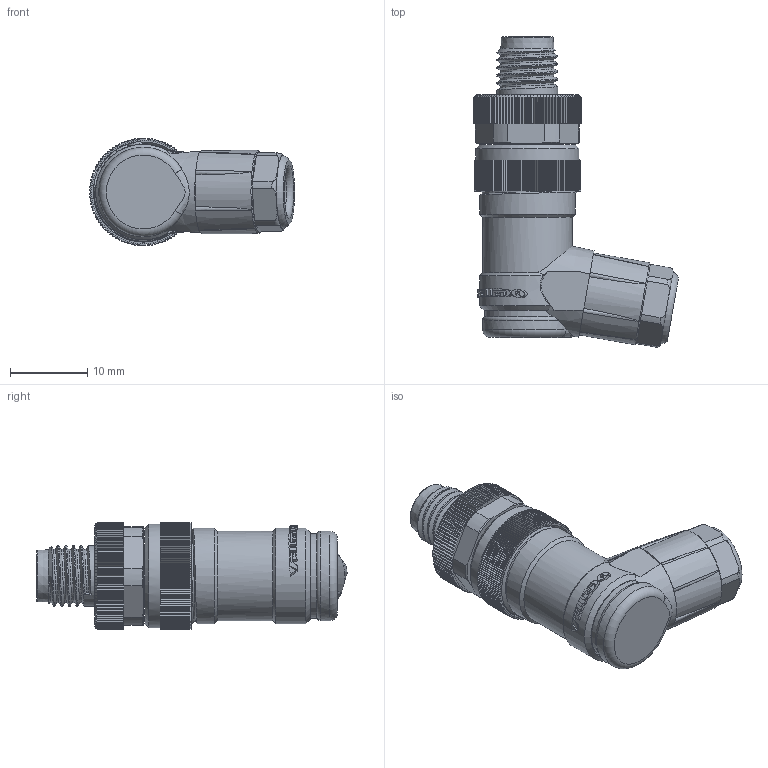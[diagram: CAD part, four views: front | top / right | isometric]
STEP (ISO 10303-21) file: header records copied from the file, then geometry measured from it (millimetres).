
FILE_DESCRIPTION(/* description */ (''),/* implementation_level */ '2;1');
FILE_NAME(/* name */ 'M8-M03S_stp.stp',/* time_stamp */ '2018-03-30T14:25:37+08:00',/* author */ (''),/* organization */ (''),/* preprocessor_version */ 'ST-DEVELOPER v16',/* originating_system */ 'SIEMENS PLM Software NX 10.0',/* authorisation */ '');
FILE_SCHEMA (('AP203_CONFIGURATION_CONTROLLED_3D_DESIGN_OF_MECHANICAL_PARTS_AND_ASSEMBLIES_MIM_LF { 1 0 10303 403 2 1 2}'));
Products named in the file (1): Admi4C5C2D16dtvu
Bounding box: 26.61 x 40.26 x 14 mm (x, y, z)
Volume: 3825.8 mm3; surface area: 6441.1 mm2
Topology: 1 solids, 1 shells, 1431 faces, 3764 edges, 2366 vertices
Faces by surface type: plane 885, cylinder 418, bspline 50, extrusion 34, cone 29, torus 12, sphere 3
Full cylindrical faces by diameter (mm): 1 x3, 1.1 x3, 1.8 x3, 1.85 x3, 5.4 x1, 5.7 x2, 6.4 x1, 6.5 x1, 6.6 x1, 7 x1, 7.8 x2, 7.9 x4, 8.1 x1, 8.8 x1, 9.4 x1, 9.6 x1, 10.6 x4, 10.8 x1, 11.2 x1, 11.6 x1, 12 x4, 12.4 x1, 13.4 x1
Entity records: 53402 total; most frequent: CARTESIAN_POINT 19240, ORIENTED_EDGE 7270, DIRECTION 6847, EDGE_CURVE 3635, AXIS2_PLACEMENT_3D 2408, VERTEX_POINT 2304, VECTOR 2031, LINE 1997
